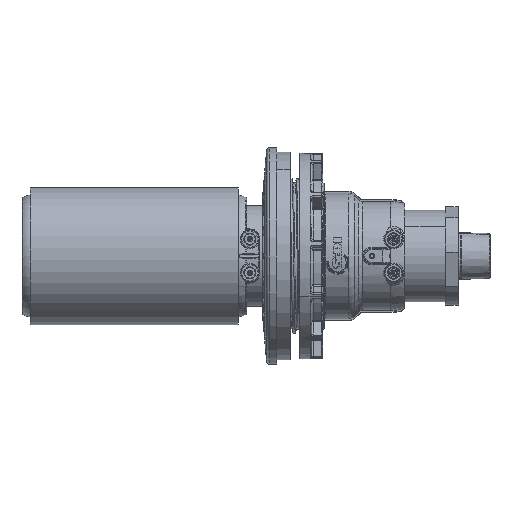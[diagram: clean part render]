
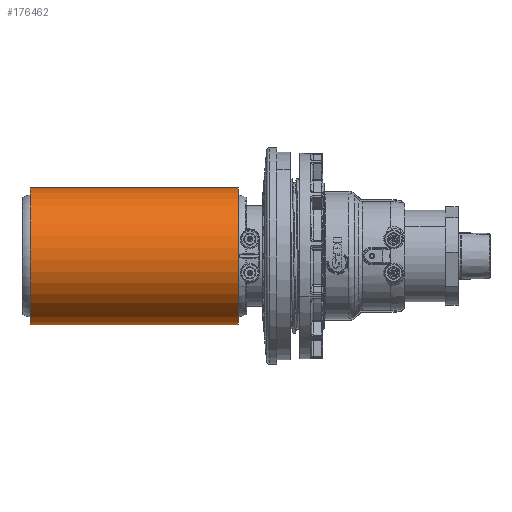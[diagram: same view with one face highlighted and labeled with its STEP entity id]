
A CAD part, left-side view. The second image highlights one B-rep face of the part: STEP entity #176462.
In plain terms, the highlighted cylindrical face has radius 50.75 mm (diameter 101.5 mm), a partial arc.
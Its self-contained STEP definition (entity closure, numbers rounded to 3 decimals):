
#2140 = EDGE_LOOP ( 'NONE', ( #20995, #103297, #170597, #142577 ) ) ;
#16288 = VECTOR ( 'NONE', #48592, 1000. ) ;
#16669 = EDGE_CURVE ( 'NONE', #177329, #25312, #180472, .T. ) ;
#20995 = ORIENTED_EDGE ( 'NONE', *, *, #56380, .F. ) ;
#23059 = CARTESIAN_POINT ( 'NONE',  ( -15.451, 228.996, 1.983 ) ) ;
#24409 = DIRECTION ( 'NONE',  ( 0., -1., 0. ) ) ;
#25312 = VERTEX_POINT ( 'NONE', #55607 ) ;
#26106 = CARTESIAN_POINT ( 'NONE',  ( -12.588, 74.996, -48.686 ) ) ;
#38615 = DIRECTION ( 'NONE',  ( 0.056, 0., -0.998 ) ) ;
#43725 = CARTESIAN_POINT ( 'NONE',  ( -18.313, 74.996, 52.653 ) ) ;
#48592 = DIRECTION ( 'NONE',  ( 0., 1., 0. ) ) ;
#51360 = DIRECTION ( 'NONE',  ( -0.056, 0., 0.998 ) ) ;
#55607 = CARTESIAN_POINT ( 'NONE',  ( -12.588, 228.996, -48.686 ) ) ;
#56380 = EDGE_CURVE ( 'NONE', #109493, #177329, #111381, .T. ) ;
#66004 = CYLINDRICAL_SURFACE ( 'NONE', #170315, 50.75 ) ;
#68684 = DIRECTION ( 'NONE',  ( 0., 1., 0. ) ) ;
#74920 = CARTESIAN_POINT ( 'NONE',  ( -12.588, 74.996, -48.686 ) ) ;
#78632 = DIRECTION ( 'NONE',  ( 0., -1., 0. ) ) ;
#80035 = DIRECTION ( 'NONE',  ( -0.056, 0., 0.998 ) ) ;
#97001 = CARTESIAN_POINT ( 'NONE',  ( -15.451, 74.996, 1.983 ) ) ;
#103297 = ORIENTED_EDGE ( 'NONE', *, *, #138211, .T. ) ;
#105855 = AXIS2_PLACEMENT_3D ( 'NONE', #23059, #78632, #51360 ) ;
#109493 = VERTEX_POINT ( 'NONE', #43725 ) ;
#111381 = CIRCLE ( 'NONE', #172548, 50.75 ) ;
#121628 = CARTESIAN_POINT ( 'NONE',  ( -18.313, 228.996, 52.653 ) ) ;
#131632 = LINE ( 'NONE', #144490, #16288 ) ;
#135792 = CARTESIAN_POINT ( 'NONE',  ( -15.451, 74.996, 1.983 ) ) ;
#138211 = EDGE_CURVE ( 'NONE', #109493, #174100, #131632, .T. ) ;
#142577 = ORIENTED_EDGE ( 'NONE', *, *, #16669, .F. ) ;
#144490 = CARTESIAN_POINT ( 'NONE',  ( -18.313, 74.996, 52.653 ) ) ;
#152544 = CIRCLE ( 'NONE', #105855, 50.75 ) ;
#161762 = EDGE_CURVE ( 'NONE', #174100, #25312, #152544, .T. ) ;
#163991 = DIRECTION ( 'NONE',  ( 0., 1., 0. ) ) ;
#166508 = VECTOR ( 'NONE', #163991, 1000. ) ;
#170315 = AXIS2_PLACEMENT_3D ( 'NONE', #97001, #68684, #38615 ) ;
#170597 = ORIENTED_EDGE ( 'NONE', *, *, #161762, .T. ) ;
#172548 = AXIS2_PLACEMENT_3D ( 'NONE', #135792, #24409, #80035 ) ;
#174100 = VERTEX_POINT ( 'NONE', #121628 ) ;
#176462 = ADVANCED_FACE ( 'NONE', ( #179272 ), #66004, .T. ) ;
#177329 = VERTEX_POINT ( 'NONE', #74920 ) ;
#179272 = FACE_OUTER_BOUND ( 'NONE', #2140, .T. ) ;
#180472 = LINE ( 'NONE', #26106, #166508 ) ;
